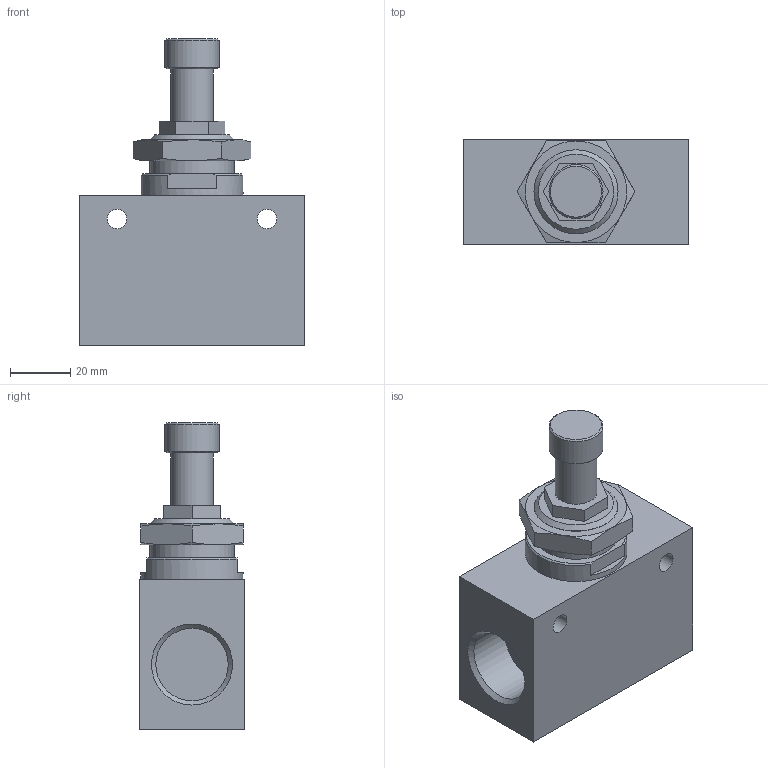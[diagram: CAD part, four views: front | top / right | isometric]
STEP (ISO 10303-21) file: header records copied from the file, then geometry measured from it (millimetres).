
FILE_DESCRIPTION(/* description */ (''),/* implementation_level */ '2;1');
FILE_NAME(/* name */ 'I:\Area Tecnica\Disegni\VARIE-3D\Componenti\600\6_01_34.stp',/* time_stamp */ '2017-01-04T08:25:19+01:00',/* author */ ('maniean1'),/* organization */ (''),/* preprocessor_version */ 'ST-DEVELOPER v15.2',/* originating_system */ 'Autodesk Inventor 2014',/* authorisation */ '');
FILE_SCHEMA (('AUTOMOTIVE_DESIGN { 1 0 10303 214 3 1 1 }'));
Length unit declared in the file: millimetre
Products named in the file (3): 6_01_34(A); 6_01_12(B); 6_01_34
Bounding box: 75 x 35 x 102 mm (x, y, z)
Volume: 137871.1 mm3; surface area: 25608 mm2
Topology: 2 solids, 2 shells, 51 faces, 112 edges, 72 vertices
Faces by surface type: plane 31, cone 11, cylinder 9
Full cylindrical faces by diameter (mm): 6.5 x2, 14 x1, 18 x1, 24.117 x2, 26.5 x1, 28 x1, 34 x1
Entity records: 1392 total; most frequent: CARTESIAN_POINT 250, DIRECTION 220, ORIENTED_EDGE 184, EDGE_CURVE 92, AXIS2_PLACEMENT_3D 88, EDGE_LOOP 82, VERTEX_POINT 70, ADVANCED_FACE 51
